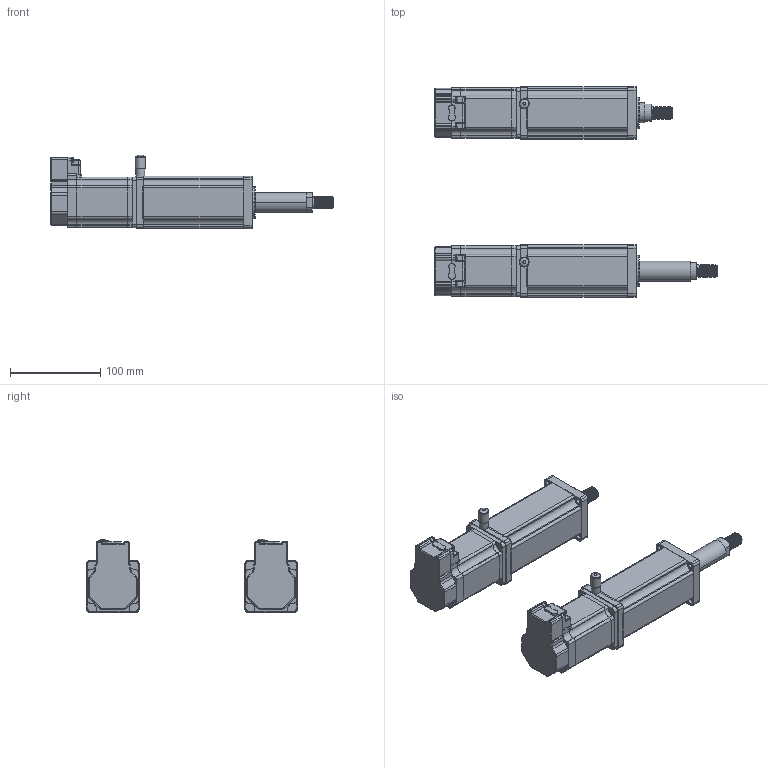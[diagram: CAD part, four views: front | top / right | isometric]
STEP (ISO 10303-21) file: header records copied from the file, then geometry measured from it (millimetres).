
FILE_DESCRIPTION(('FreeCAD Model'),'2;1');
FILE_NAME('Open CASCADE Shape Model','2023-08-04T13:16:35',('Author'),( ''),'Open CASCADE STEP processor 7.5','FreeCAD','Unknown');
FILE_SCHEMA(('AUTOMOTIVE_DESIGN { 1 0 10303 214 1 1 1 1 }'));
Length unit declared in the file: millimetre
Products named in the file (47): Unnamed; Shapes; Shapes001; Shapes002; Shapes003; Shapes004; Shapes005; Shapes006; Shapes007; Shapes008; Shapes009; Shapes010; Shapes011; Shapes012; Shapes013; Shapes014; Shapes015; Shapes016; Shapes017; Shapes018; Shapes019; Shapes020; Shapes021; Shapes022; Shapes023; Shapes024; Shapes025; Shapes026; Shapes027; Shapes028; Shapes029; Shapes030; Shapes031; Shapes032; Shapes033; Shapes034; Shapes035; Shapes036; Shapes037; Shapes038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
Assembly tree (46 placements, depth 2):
  Unnamed
    Shapes
    Shapes001
    Shapes002
    Shapes003
    Shapes004
    Shapes005
    Shapes006
    Shapes007
    Shapes008
    Shapes009
    Shapes010
    Shapes011
    Shapes012
    Shapes013
    Shapes014
    Shapes015
    Shapes016
    Shapes017
    Shapes018
    Shapes019
    Shapes020
    Shapes021
    Shapes022
    Shapes023
    Shapes024
    Shapes025
    Shapes026
    Shapes027
    Shapes028
    Shapes029
    Shapes030
    Shapes031
    Shapes032
    Shapes033
    Shapes034
    Shapes035
    Shapes036
    Shapes037
    Shapes038
    Shapes039
    Shapes040
    Shapes041
    Shapes042
    Shapes043
    AN10-01
    AN10-002
Bounding box: 312.5 x 233.23 x 81.34 mm (x, y, z)
Volume: 1395414.8 mm3; surface area: 228612.4 mm2
Topology: 46 solids, 46 shells, 1358 faces, 3600 edges, 2342 vertices
Faces by surface type: plane 770, cylinder 476, bspline 60, torus 38, sphere 10, cone 4
Full cylindrical faces by diameter (mm): 6 x2, 9.728 x2, 11 x2
Entity records: 146407 total; most frequent: CARTESIAN_POINT 73909, DIRECTION 13360, LINE 8410, VECTOR 8410, ORIENTED_EDGE 7168, PCURVE 7168, DEFINITIONAL_REPRESENTATION 7168, EDGE_CURVE 3584
